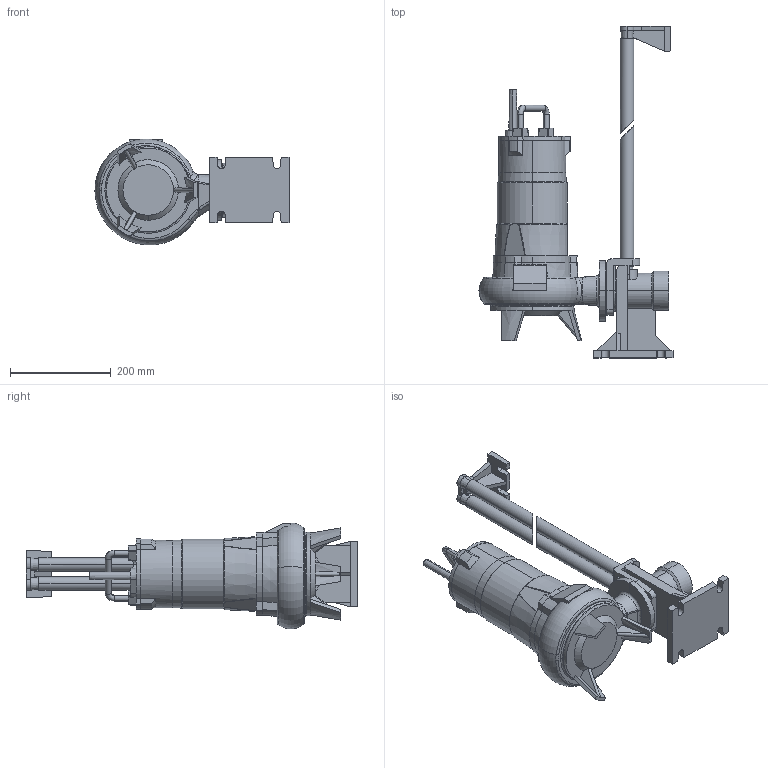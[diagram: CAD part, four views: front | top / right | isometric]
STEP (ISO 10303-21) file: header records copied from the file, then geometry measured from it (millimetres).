
FILE_DESCRIPTION (( 'STEP AP203' ), '1' );
FILE_NAME ('F102-152_piede-acc.STEP', '2022-10-10T13:54:00', ( '' ), ( '' ), 'SwSTEP 2.0', 'SolidWorks 2020', '' );
FILE_SCHEMA (( 'CONFIG_CONTROL_DESIGN' ));
Length unit declared in the file: millimetre
Products named in the file (1): F102-152_piede-acc
Bounding box: 384.47 x 657.65 x 209.71 mm (x, y, z)
Volume: 8502536.4 mm3; surface area: 592975.6 mm2
Topology: 2 solids, 5 shells, 438 faces, 1150 edges, 736 vertices
Faces by surface type: plane 213, cylinder 88, cone 70, bspline 43, torus 24
Entity records: 16810 total; most frequent: CARTESIAN_POINT 6390, ORIENTED_EDGE 2288, DIRECTION 2011, EDGE_CURVE 1144, VERTEX_POINT 736, AXIS2_PLACEMENT_3D 731, LINE 549, VECTOR 549
